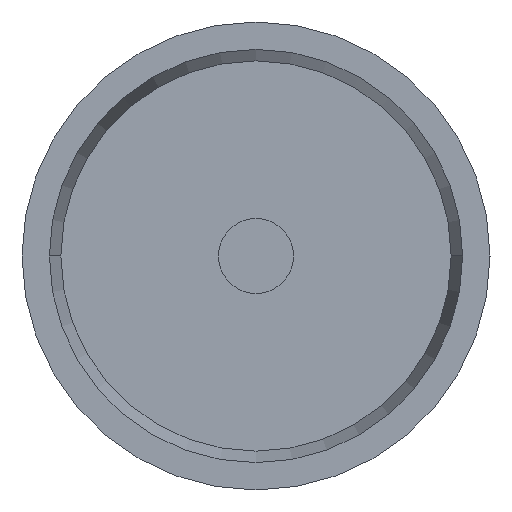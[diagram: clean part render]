
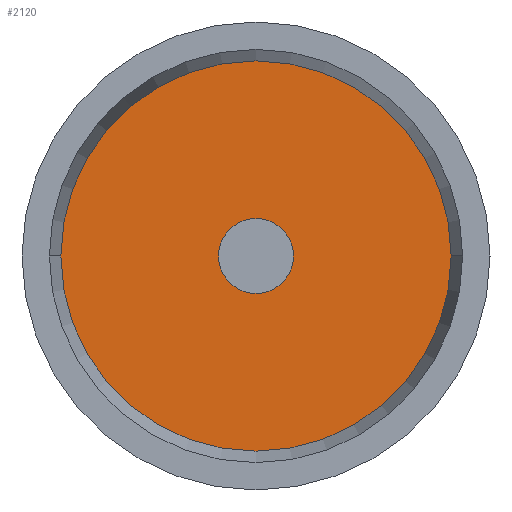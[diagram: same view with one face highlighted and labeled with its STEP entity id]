
A CAD part, left-side view. The second image highlights one B-rep face of the part: STEP entity #2120.
In plain terms, the highlighted planar face has unit normal (-1, 0, 0).
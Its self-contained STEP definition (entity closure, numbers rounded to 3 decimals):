
#960=CARTESIAN_POINT('',(0.,2.311,0.));
#970=VERTEX_POINT('',#960);
#1170=CARTESIAN_POINT('',(0.,-2.311,0.));
#1180=VERTEX_POINT('',#1170);
#1210=CARTESIAN_POINT('',(0.,0.,0.)
);
#1220=DIRECTION('',(1.,-0.,-0.));
#1230=DIRECTION('',(0.,1.,0.));
#1240=AXIS2_PLACEMENT_3D('',#1210,#1220,#1230);
#1250=CIRCLE('',#1240,2.311);
#1260=CARTESIAN_POINT('',(0.,0.,
2.311));
#1270=VERTEX_POINT('',#1260);
#1280=EDGE_CURVE('',#1270,#1180,#1250,.T.);
#1300=EDGE_CURVE('',#970,#1270,#1250,.T.);
#1820=CARTESIAN_POINT('',(0.,-2.339,2.339));
#1830=DIRECTION('',(1.,0.,0.));
#1840=DIRECTION('',(0.,-1.,0.));
#1850=AXIS2_PLACEMENT_3D('',#1820,#1830,#1840);
#1860=PLANE('',#1850);
#1870=ORIENTED_EDGE('',*,*,#1280,.F.);
#1880=EDGE_CURVE('',#1180,#970,#1250,.T.);
#1890=ORIENTED_EDGE('',*,*,#1880,.F.);
#1900=ORIENTED_EDGE('',*,*,#1300,.F.);
#1910=EDGE_LOOP('',(#1900,#1890,#1870));
#1920=FACE_OUTER_BOUND('',#1910,.T.);
#1930=CARTESIAN_POINT('',(0.,0.,0.)
);
#1940=DIRECTION('',(-1.,0.,0.));
#1950=DIRECTION('',(0.,1.,0.));
#1960=AXIS2_PLACEMENT_3D('',#1930,#1940,#1950);
#1970=CIRCLE('',#1960,0.445);
#1980=CARTESIAN_POINT('',(0.,0.,-0.445));
#1990=VERTEX_POINT('',#1980);
#2000=CARTESIAN_POINT('',(0.,-0.445,0.));
#2010=VERTEX_POINT('',#2000);
#2020=EDGE_CURVE('',#1990,#2010,#1970,.T.);
#2030=ORIENTED_EDGE('',*,*,#2020,.F.);
#2040=CARTESIAN_POINT('',(0.,0.445,0.));
#2050=VERTEX_POINT('',#2040);
#2060=EDGE_CURVE('',#2010,#2050,#1970,.T.);
#2070=ORIENTED_EDGE('',*,*,#2060,.F.);
#2080=EDGE_CURVE('',#2050,#1990,#1970,.T.);
#2090=ORIENTED_EDGE('',*,*,#2080,.F.);
#2100=EDGE_LOOP('',(#2090,#2070,#2030));
#2110=FACE_BOUND('',#2100,.T.);
#2120=ADVANCED_FACE('',(#1920,#2110),#1860,.F.);
